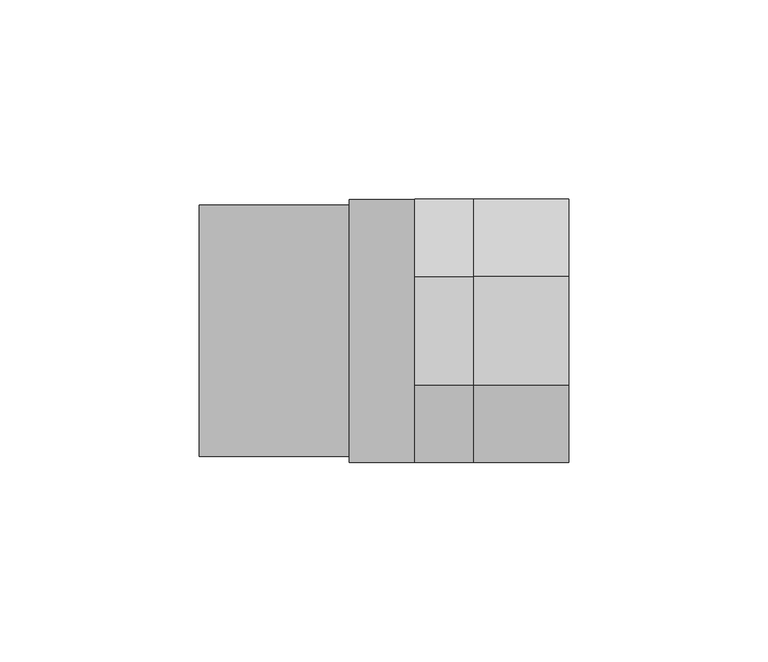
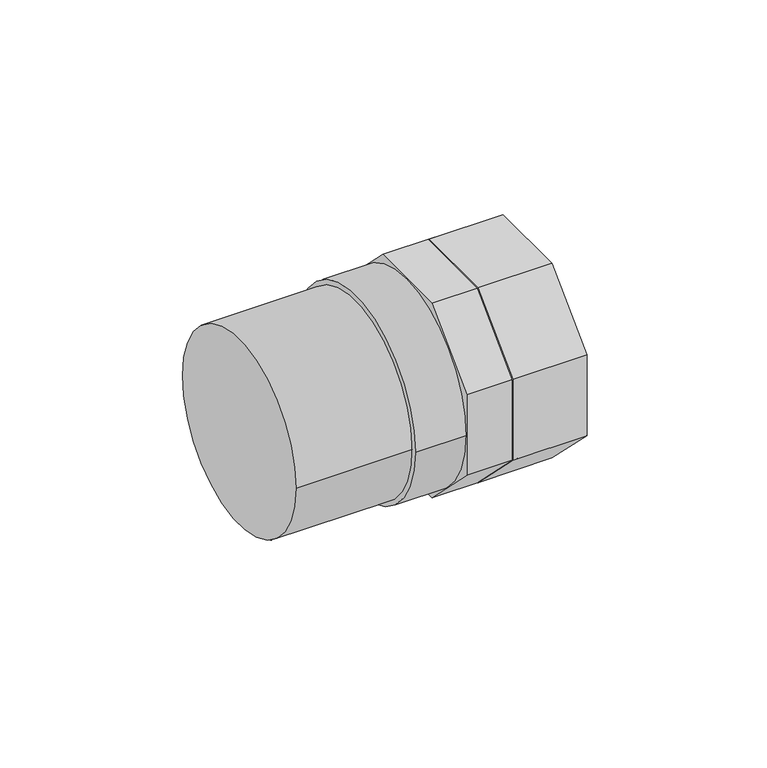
"""IFC4 building model written with IfcOpenShell, lengths in millimetres: pipe fitting geometry, PipeFitting_GirpiHTA_CPVC_AdaptorNipplesA_ForExpansionJoints : PipeFitting_GirpiHTA_CPVC_AdaptorNipplesA_ForExpansionJoints."""

from ifc_helpers import new_model, si_unit, point, frame, origin, origin_2d, place, context, project, spatial, polyline, circle_curve, trimmed, segment, composite_curve, outline, extrude, source, transform, mapped, element, save


def pipe_fitting_2d7bc59a(model_context):
    return source(origin(), model_context, "Body", "SweptSolid", [
        extrude(outline(polyline([(-33.0, 13.6690476), (-13.6690476, 33.0), (13.6690476, 33.0), (33.0, 13.6690476), (33.0, -13.6690476), (13.6690476, -33.0), (-13.6690476, -33.0), (-33.0, -13.6690476), (-33.0, 13.6690476)])), frame((22.5, 0.0, 0.0), z_axis=(1.0, 0.0, 0.0), x_axis=(0.0, 1.0, 0.0)), (0.0, 0.0, 1.0), 23.75),
        extrude(outline(composite_curve([segment(trimmed(circle_curve(origin_2d(), 19.05), [point((-19.05, 0.0))], [point((19.05, 0.0))], False, "CARTESIAN"), True, "CONTINUOUS"), segment(trimmed(circle_curve(origin_2d(), 19.05), [point((19.05, 0.0))], [point((-19.05, 0.0))], False, "CARTESIAN"), True, "CONTINUOUS")], self_intersect=False)), frame((24.25, 0.0, 0.0), z_axis=(1.0, 0.0, 0.0), x_axis=(0.0, 1.0, 0.0)), (0.0, 0.0, 1.0), 22.0),
        extrude(outline(polyline([(13.6690476, 33.0), (33.0, 13.6690476), (33.0, -13.6690476), (13.6690476, -33.0), (-13.6690476, -33.0), (-33.0, -13.6690476), (-33.0, 13.6690476), (-13.6690476, 33.0), (13.6690476, 33.0)])), frame((7.75, 0.0, 0.0), z_axis=(1.0, 0.0, 0.0), x_axis=(0.0, 1.0, 0.0)), (0.0, 0.0, 1.0), 16.5),
        extrude(outline(composite_curve([segment(trimmed(circle_curve(origin_2d(), 33.0), [point((-33.0, 0.0))], [point((33.0, 0.0))], False, "CARTESIAN"), True, "CONTINUOUS"), segment(trimmed(circle_curve(origin_2d(), 33.0), [point((33.0, 0.0))], [point((-33.0, 0.0))], False, "CARTESIAN"), True, "CONTINUOUS")], self_intersect=False)), frame((-8.75, 0.0, 0.0), z_axis=(1.0, 0.0, 0.0), x_axis=(0.0, 1.0, 0.0)), (0.0, 0.0, 1.0), 16.5),
        extrude(outline(composite_curve([segment(trimmed(circle_curve(origin_2d(), 31.5), [point((-31.5, 0.0))], [point((31.5, 0.0))], False, "CARTESIAN"), True, "CONTINUOUS"), segment(trimmed(circle_curve(origin_2d(), 31.5), [point((31.5, 0.0))], [point((-31.5, 0.0))], False, "CARTESIAN"), True, "CONTINUOUS")], self_intersect=False)), frame((-46.25, 0.0, 0.0), z_axis=(1.0, 0.0, 0.0), x_axis=(0.0, 1.0, 0.0)), (0.0, 0.0, 1.0), 37.5),
    ])


if __name__ == "__main__":
    model = new_model("IFC4")
    model_context = context("Model", 3, world=origin())
    ifc_project = project(units=[si_unit("LENGTHUNIT", "METRE", prefix="MILLI")], contexts=[model_context])
    site = spatial("IfcSite", under=ifc_project)
    building = spatial("IfcBuilding", under=site)
    placement = place(None, origin())
    pipe_fitting_shape = pipe_fitting_2d7bc59a(model_context)
    element("IfcPipeFitting", 1, ObjectType="PipeFitting_GirpiHTA_CPVC_AdaptorNipplesA_ForExpansionJoints : PipeFitting_GirpiHTA_CPVC_AdaptorNipplesA_ForExpansionJoints", at=placement, inside=building, context=model_context, shape_type="MappedRepresentation", body=[
        mapped(pipe_fitting_shape, transform((0.0, 0.0, 0.0), x_axis=(1.0, 0.0, 0.0), y_axis=(0.0, 1.0, 0.0), z_axis=(0.0, 0.0, 1.0))),
    ])
    save(model, "model.ifc")
